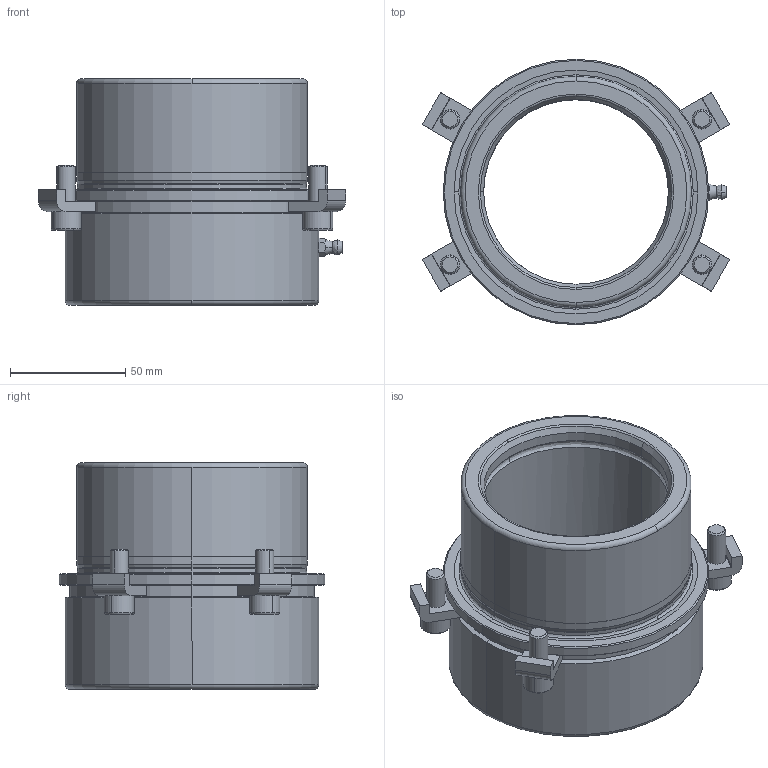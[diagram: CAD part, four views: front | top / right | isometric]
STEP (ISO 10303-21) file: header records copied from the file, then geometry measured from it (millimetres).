
FILE_DESCRIPTION((''),'2;1');
FILE_NAME('B10_080_050.stp','2008-11-06T09:17:44',(''),(''),'Mechanical Desktop 2009','Mechanical Desktop 2009',', , ');
FILE_SCHEMA(('CONFIG_CONTROL_DESIGN'));
Length unit declared in the file: millimetre
Products named in the file (2): Product; blmdl1
Assembly tree (1 placements, depth 2):
  Product
    blmdl1
Bounding box: 133.18 x 115 x 98 mm (x, y, z)
Volume: 369285.5 mm3; surface area: 77679.8 mm2
Topology: 10 solids, 10 shells, 202 faces, 505 edges, 332 vertices
Faces by surface type: plane 82, cylinder 60, cone 24, bspline 18, torus 18
Entity records: 7382 total; most frequent: CARTESIAN_POINT 2304, DIRECTION 1111, ORIENTED_EDGE 1002, EDGE_CURVE 501, AXIS2_PLACEMENT_3D 441, VERTEX_POINT 330, CIRCLE 255, VECTOR 229
